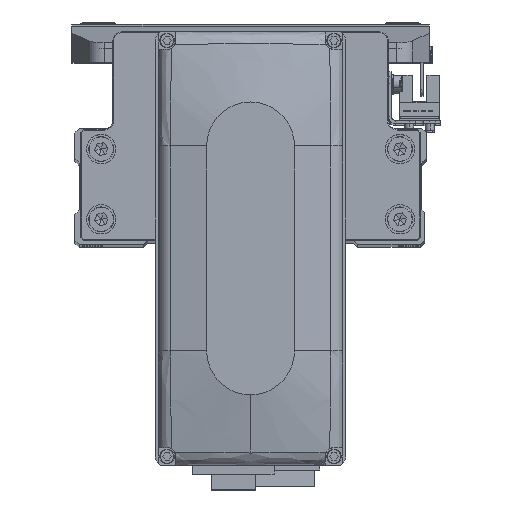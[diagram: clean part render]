
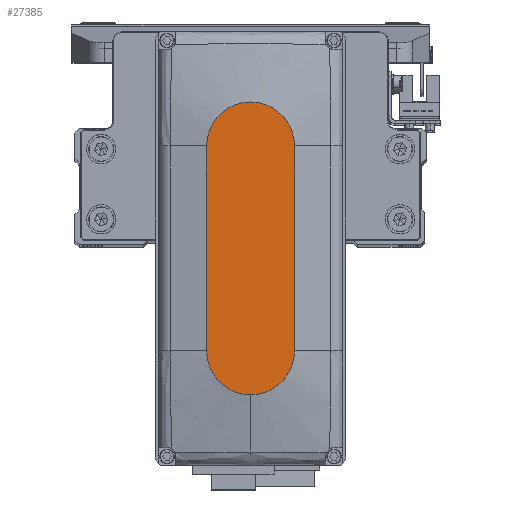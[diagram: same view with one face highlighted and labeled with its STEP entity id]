
A CAD part, top view. The second image highlights one B-rep face of the part: STEP entity #27385.
In plain terms, the highlighted planar face has unit normal (0, 0, 1).
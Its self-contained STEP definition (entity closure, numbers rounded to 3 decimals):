
#594 = AXIS2_PLACEMENT_3D ( 'NONE', #21877, #35597, #4757 ) ;
#2764 = DIRECTION ( 'NONE',  ( 0., 0., 1. ) ) ;
#2836 = CARTESIAN_POINT ( 'NONE',  ( -35., 15., 35. ) ) ;
#2934 = AXIS2_PLACEMENT_3D ( 'NONE', #33599, #2764, #16508 ) ;
#3071 = EDGE_CURVE ( 'NONE', #22990, #7581, #3121, .T. ) ;
#3121 = LINE ( 'NONE', #16862, #15582 ) ;
#3233 = ORIENTED_EDGE ( 'NONE', *, *, #34251, .T. ) ;
#3806 = DIRECTION ( 'NONE',  ( 0., 0., 1. ) ) ;
#4757 = DIRECTION ( 'NONE',  ( 1., 0., 0. ) ) ;
#5096 = DIRECTION ( 'NONE',  ( 1., 0., 0. ) ) ;
#6066 = CARTESIAN_POINT ( 'NONE',  ( 35., -15., 35. ) ) ;
#7581 = VERTEX_POINT ( 'NONE', #6066 ) ;
#8478 = PLANE ( 'NONE',  #14085 ) ;
#9839 = EDGE_CURVE ( 'NONE', #28947, #44198, #33668, .T. ) ;
#10157 = CIRCLE ( 'NONE', #35301, 15. ) ;
#10547 = EDGE_CURVE ( 'NONE', #44198, #22990, #20011, .T. ) ;
#14085 = AXIS2_PLACEMENT_3D ( 'NONE', #22226, #35940, #5096 ) ;
#15582 = VECTOR ( 'NONE', #30569, 1000. ) ;
#16508 = DIRECTION ( 'NONE',  ( 1., 0., 0. ) ) ;
#16581 = DIRECTION ( 'NONE',  ( -1., 0., 0. ) ) ;
#16862 = CARTESIAN_POINT ( 'NONE',  ( -35., -15., 35. ) ) ;
#17551 = DIRECTION ( 'NONE',  ( 1., 0., 0. ) ) ;
#20011 = CIRCLE ( 'NONE', #594, 15. ) ;
#20420 = CARTESIAN_POINT ( 'NONE',  ( -35., 15., 35. ) ) ;
#21877 = CARTESIAN_POINT ( 'NONE',  ( -35., 0., 35. ) ) ;
#22226 = CARTESIAN_POINT ( 'NONE',  ( 0., 0., 35. ) ) ;
#22350 = CIRCLE ( 'NONE', #2934, 15. ) ;
#22890 = VERTEX_POINT ( 'NONE', #35280 ) ;
#22990 = VERTEX_POINT ( 'NONE', #42909 ) ;
#23620 = EDGE_CURVE ( 'NONE', #7581, #22890, #22350, .T. ) ;
#25138 = ORIENTED_EDGE ( 'NONE', *, *, #10547, .T. ) ;
#25244 = EDGE_LOOP ( 'NONE', ( #40652, #25138, #28854, #40376, #3233 ) ) ;
#27385 = ADVANCED_FACE ( 'NONE', ( #39304 ), #8478, .T. ) ;
#28854 = ORIENTED_EDGE ( 'NONE', *, *, #3071, .T. ) ;
#28947 = VERTEX_POINT ( 'NONE', #41831 ) ;
#30569 = DIRECTION ( 'NONE',  ( 1., 0., 0. ) ) ;
#33599 = CARTESIAN_POINT ( 'NONE',  ( 35., 0., 35. ) ) ;
#33668 = LINE ( 'NONE', #2836, #43782 ) ;
#34251 = EDGE_CURVE ( 'NONE', #22890, #28947, #10157, .T. ) ;
#34656 = CARTESIAN_POINT ( 'NONE',  ( 35., 0., 35. ) ) ;
#35280 = CARTESIAN_POINT ( 'NONE',  ( 50., 0., 35. ) ) ;
#35301 = AXIS2_PLACEMENT_3D ( 'NONE', #34656, #3806, #17551 ) ;
#35597 = DIRECTION ( 'NONE',  ( 0., 0., 1. ) ) ;
#35940 = DIRECTION ( 'NONE',  ( 0., 0., 1. ) ) ;
#39304 = FACE_OUTER_BOUND ( 'NONE', #25244, .T. ) ;
#40376 = ORIENTED_EDGE ( 'NONE', *, *, #23620, .T. ) ;
#40652 = ORIENTED_EDGE ( 'NONE', *, *, #9839, .T. ) ;
#41831 = CARTESIAN_POINT ( 'NONE',  ( 35., 15., 35. ) ) ;
#42909 = CARTESIAN_POINT ( 'NONE',  ( -35., -15., 35. ) ) ;
#43782 = VECTOR ( 'NONE', #16581, 1000. ) ;
#44198 = VERTEX_POINT ( 'NONE', #20420 ) ;
